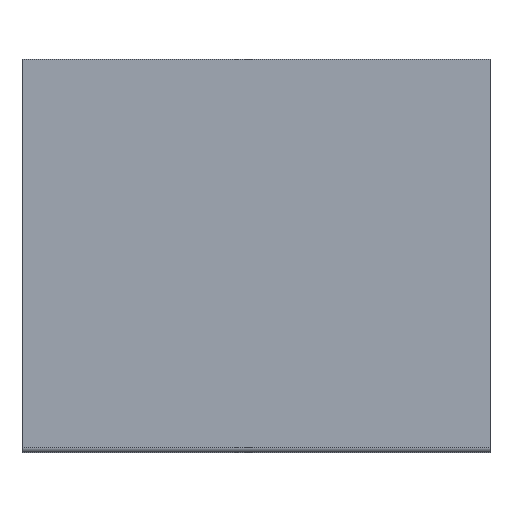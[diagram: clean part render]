
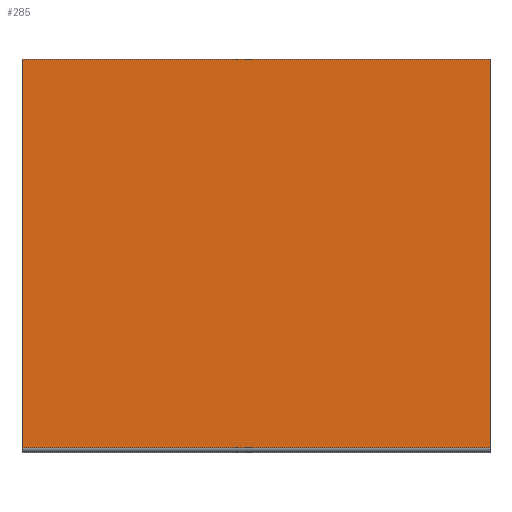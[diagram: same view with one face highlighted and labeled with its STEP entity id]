
A CAD part, top view. The second image highlights one B-rep face of the part: STEP entity #285.
In plain terms, the highlighted planar face has unit normal (0, 0, 1).
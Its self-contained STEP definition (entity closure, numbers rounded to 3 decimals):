
#125 = EDGE_CURVE( '', #235, #161, #328, .T. );
#149 = EDGE_CURVE( '', #161, #279, #354, .T. );
#161 = VERTEX_POINT( '', #369 );
#215 = EDGE_CURVE( '', #225, #279, #431, .T. );
#225 = VERTEX_POINT( '', #441 );
#235 = VERTEX_POINT( '', #452 );
#279 = VERTEX_POINT( '', #499 );
#285 = ADVANCED_FACE( '', ( #506 ), #507, .T. );
#301 = EDGE_CURVE( '', #235, #225, #524, .T. );
#328 = LINE( '', #546, #547 );
#354 = LINE( '', #579, #580 );
#369 = CARTESIAN_POINT( '', ( 41., -41.5, 20. ) );
#431 = LINE( '', #680, #681 );
#441 = CARTESIAN_POINT( '', ( -9., 0., 20. ) );
#452 = CARTESIAN_POINT( '', ( 41., 0., 20. ) );
#499 = CARTESIAN_POINT( '', ( -9., -41.5, 20. ) );
#506 = FACE_OUTER_BOUND( '', #783, .T. );
#507 = PLANE( '', #784 );
#524 = LINE( '', #807, #808 );
#546 = CARTESIAN_POINT( '', ( 41., 0., 20. ) );
#547 = VECTOR( '', #820, 1. );
#579 = CARTESIAN_POINT( '', ( 41., -41.5, 20. ) );
#580 = VECTOR( '', #847, 1. );
#680 = CARTESIAN_POINT( '', ( -9., 0., 20. ) );
#681 = VECTOR( '', #944, 1. );
#783 = EDGE_LOOP( '', ( #1024, #1025, #1026, #1027 ) );
#784 = AXIS2_PLACEMENT_3D( '', #1028, #1029, #1030 );
#807 = CARTESIAN_POINT( '', ( 41., 0., 20. ) );
#808 = VECTOR( '', #1049, 1. );
#820 = DIRECTION( '', ( 0., -1., 0. ) );
#847 = DIRECTION( '', ( -1., 0., 0. ) );
#944 = DIRECTION( '', ( 0., -1., 0. ) );
#1024 = ORIENTED_EDGE( '', *, *, #215, .T. );
#1025 = ORIENTED_EDGE( '', *, *, #149, .F. );
#1026 = ORIENTED_EDGE( '', *, *, #125, .F. );
#1027 = ORIENTED_EDGE( '', *, *, #301, .T. );
#1028 = CARTESIAN_POINT( '', ( 41., 0., 20. ) );
#1029 = DIRECTION( '', ( 0., 0., 1. ) );
#1030 = DIRECTION( '', ( 0., 1., 0. ) );
#1049 = DIRECTION( '', ( -1., 0., 0. ) );
